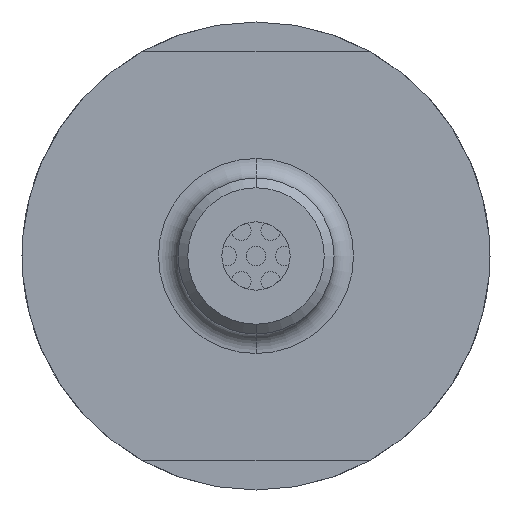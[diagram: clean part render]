
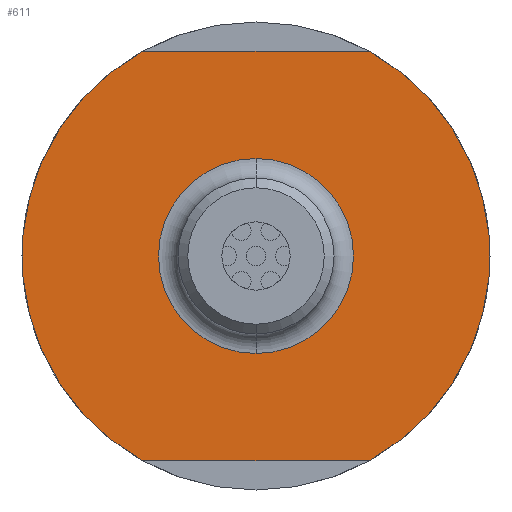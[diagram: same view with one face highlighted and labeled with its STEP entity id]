
A CAD part, front view. The second image highlights one B-rep face of the part: STEP entity #611.
In plain terms, the highlighted planar face has unit normal (0, -1, 0).
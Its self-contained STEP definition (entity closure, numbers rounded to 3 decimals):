
#23 = VERTEX_POINT ( 'NONE', #950 ) ;
#32 = CIRCLE ( 'NONE', #1149, 12. ) ;
#84 = DIRECTION ( 'NONE',  ( 0., 0., -1. ) ) ;
#102 = CARTESIAN_POINT ( 'NONE',  ( 0., 0., 0. ) ) ;
#104 = ORIENTED_EDGE ( 'NONE', *, *, #1317, .F. ) ;
#117 = DIRECTION ( 'NONE',  ( 0., 0., -1. ) ) ;
#162 = VECTOR ( 'NONE', #1531, 1000. ) ;
#194 = VERTEX_POINT ( 'NONE', #339 ) ;
#203 = LINE ( 'NONE', #990, #1562 ) ;
#205 = ORIENTED_EDGE ( 'NONE', *, *, #782, .T. ) ;
#232 = DIRECTION ( 'NONE',  ( 0., 0., -1. ) ) ;
#238 = LINE ( 'NONE', #1262, #162 ) ;
#295 = PLANE ( 'NONE',  #922 ) ;
#339 = CARTESIAN_POINT ( 'NONE',  ( -5.809, 0., 10.5 ) ) ;
#378 = DIRECTION ( 'NONE',  ( 0., 0., 1. ) ) ;
#395 = ORIENTED_EDGE ( 'NONE', *, *, #786, .F. ) ;
#449 = DIRECTION ( 'NONE',  ( 0., -1., 0. ) ) ;
#469 = DIRECTION ( 'NONE',  ( 1., 0., 0. ) ) ;
#611 = ADVANCED_FACE ( 'NONE', ( #821, #1498 ), #295, .F. ) ;
#623 = CIRCLE ( 'NONE', #1124, 5. ) ;
#625 = CIRCLE ( 'NONE', #708, 5. ) ;
#707 = EDGE_LOOP ( 'NONE', ( #738, #1532, #1045, #205 ) ) ;
#708 = AXIS2_PLACEMENT_3D ( 'NONE', #1668, #856, #84 ) ;
#738 = ORIENTED_EDGE ( 'NONE', *, *, #1501, .T. ) ;
#782 = EDGE_CURVE ( 'NONE', #1300, #1390, #203, .T. ) ;
#786 = EDGE_CURVE ( 'NONE', #1004, #912, #625, .T. ) ;
#821 = FACE_BOUND ( 'NONE', #953, .T. ) ;
#840 = EDGE_CURVE ( 'NONE', #23, #194, #238, .T. ) ;
#856 = DIRECTION ( 'NONE',  ( 0., -1., 0. ) ) ;
#887 = DIRECTION ( 'NONE',  ( 0., -1., 0. ) ) ;
#912 = VERTEX_POINT ( 'NONE', #1423 ) ;
#922 = AXIS2_PLACEMENT_3D ( 'NONE', #1349, #1176, #378 ) ;
#938 = EDGE_CURVE ( 'NONE', #194, #1300, #32, .T. ) ;
#950 = CARTESIAN_POINT ( 'NONE',  ( 5.809, 0., 10.5 ) ) ;
#953 = EDGE_LOOP ( 'NONE', ( #395, #104 ) ) ;
#990 = CARTESIAN_POINT ( 'NONE',  ( -12., 0., -10.5 ) ) ;
#1004 = VERTEX_POINT ( 'NONE', #1569 ) ;
#1010 = DIRECTION ( 'NONE',  ( 0., -1., 0. ) ) ;
#1045 = ORIENTED_EDGE ( 'NONE', *, *, #938, .T. ) ;
#1118 = CARTESIAN_POINT ( 'NONE',  ( 5.809, 0., -10.5 ) ) ;
#1124 = AXIS2_PLACEMENT_3D ( 'NONE', #1242, #449, #1391 ) ;
#1149 = AXIS2_PLACEMENT_3D ( 'NONE', #1700, #887, #117 ) ;
#1176 = DIRECTION ( 'NONE',  ( 0., 1., 0. ) ) ;
#1235 = CARTESIAN_POINT ( 'NONE',  ( -5.809, 0., -10.5 ) ) ;
#1242 = CARTESIAN_POINT ( 'NONE',  ( 0., 0., 0. ) ) ;
#1262 = CARTESIAN_POINT ( 'NONE',  ( -12., 0., 10.5 ) ) ;
#1300 = VERTEX_POINT ( 'NONE', #1235 ) ;
#1317 = EDGE_CURVE ( 'NONE', #912, #1004, #623, .T. ) ;
#1349 = CARTESIAN_POINT ( 'NONE',  ( -12., 0., 0. ) ) ;
#1390 = VERTEX_POINT ( 'NONE', #1118 ) ;
#1391 = DIRECTION ( 'NONE',  ( 0., 0., -1. ) ) ;
#1402 = CIRCLE ( 'NONE', #1577, 12. ) ;
#1423 = CARTESIAN_POINT ( 'NONE',  ( 0., 0., 5. ) ) ;
#1498 = FACE_OUTER_BOUND ( 'NONE', #707, .T. ) ;
#1501 = EDGE_CURVE ( 'NONE', #1390, #23, #1402, .T. ) ;
#1531 = DIRECTION ( 'NONE',  ( -1., 0., 0. ) ) ;
#1532 = ORIENTED_EDGE ( 'NONE', *, *, #840, .T. ) ;
#1562 = VECTOR ( 'NONE', #469, 1000. ) ;
#1569 = CARTESIAN_POINT ( 'NONE',  ( 0., 0., -5. ) ) ;
#1577 = AXIS2_PLACEMENT_3D ( 'NONE', #102, #1010, #232 ) ;
#1668 = CARTESIAN_POINT ( 'NONE',  ( 0., 0., 0. ) ) ;
#1700 = CARTESIAN_POINT ( 'NONE',  ( 0., 0., 0. ) ) ;
